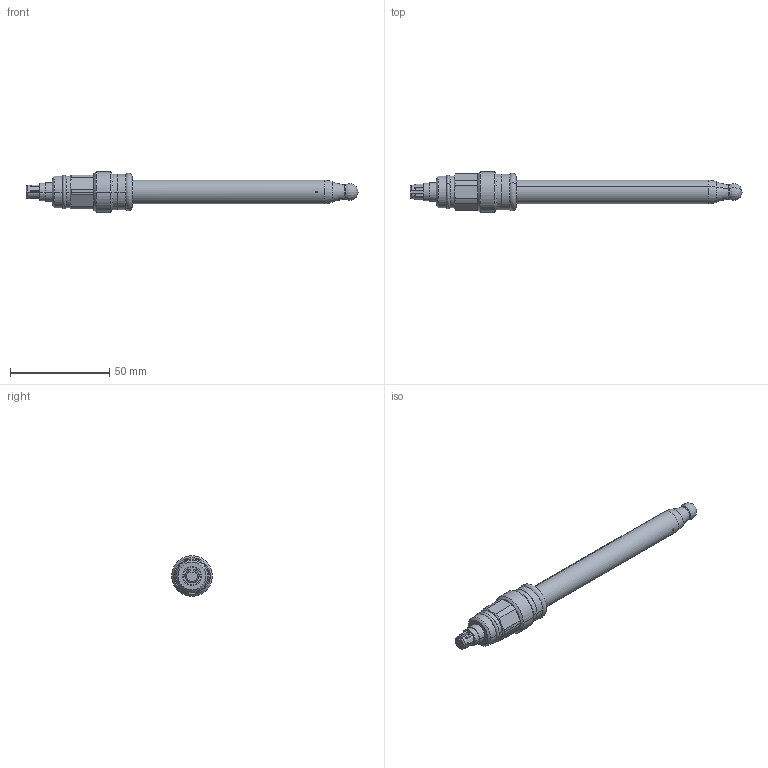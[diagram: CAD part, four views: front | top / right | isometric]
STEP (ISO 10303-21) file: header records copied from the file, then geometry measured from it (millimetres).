
FILE_DESCRIPTION(('CATIA V5 STEP Exchange'),'2;1');
FILE_NAME('C:\Users\cu2001\Catia Dateien\STEP-Dateien\201020_51-18-07-17-120_837_840 TN 00351265.stp','2014-02-17T13:33:49+00:00',('none'),('none'),'CATIA Version 5 Release 20 SP 7 (IN-10)','CATIA V5 STEP AP203','none');
FILE_SCHEMA(('CONFIG_CONTROL_DESIGN'));
Length unit declared in the file: millimetre
Products named in the file (1): 201020_51-18-07-17-120_837_840
Bounding box: 167.2 x 20.4 x 20.4 mm (x, y, z)
Volume: 12484.7 mm3; surface area: 20165.5 mm2
Topology: 20 solids, 20 shells, 179 faces, 354 edges, 216 vertices
Faces by surface type: cylinder 73, plane 55, torus 37, cone 8, revolution 6
Entity records: 4135 total; most frequent: CARTESIAN_POINT 797, ORIENTED_EDGE 700, DIRECTION 530, EDGE_CURVE 350, AXIS2_PLACEMENT_3D 318, CIRCLE 221, VERTEX_POINT 216, EDGE_LOOP 192
